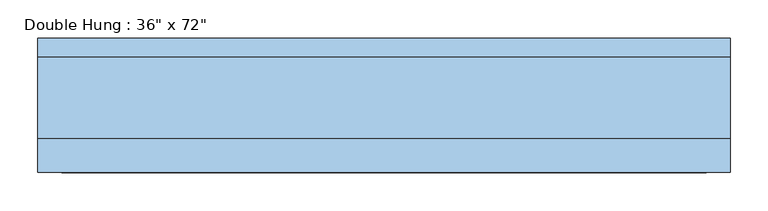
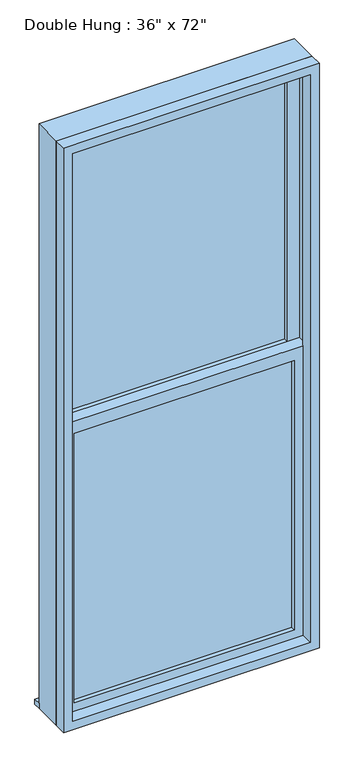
"""IFC4 building model written with IfcOpenShell, lengths in millimetres: window geometry."""

from ifc_helpers import new_model, si_unit, frame, origin, place, context, project, spatial, polyline, outline, extrude, source, transform, mapped, element, save


def window_8e2a3c93(model_context):
    return source(origin(), model_context, "Body", "SweptSolid", [
        extrude(outline(polyline([(-393.7, -3.175), (393.7, -3.175), (393.7, -15.875), (-393.7, -15.875), (-393.7, -3.175)])), frame((0.0, 0.0, 368.3), z_axis=(0.0, 0.0, 1.0), x_axis=(1.0, 0.0, 0.0)), (0.0, 0.0, 1.0), 1019.175),
        extrude(outline(polyline([(1431.925, -438.15), (323.85, -438.15), (323.85, 438.15), (1431.925, 438.15), (1431.925, -438.15)]), holes=[polyline([(1387.475, -393.7), (1387.475, 393.7), (368.3, 393.7), (368.3, -393.7), (1387.475, -393.7)])]), frame((0.0, -31.75, 0.0), z_axis=(0.0, 1.0, 0.0), x_axis=(0.0, 0.0, 1.0)), (0.0, 0.0, 1.0), 44.45),
        extrude(outline(polyline([(-457.2, 101.6), (457.2, 101.6), (457.2, 76.2), (-457.2, 76.2), (-457.2, 101.6)])), frame((0.0, 0.0, 304.8), z_axis=(0.0, 0.0, 1.0), x_axis=(1.0, 0.0, 0.0)), (0.0, 0.0, 1.0), 19.05),
        extrude(outline(polyline([(393.7, 28.575), (-393.7, 28.575), (-393.7, 41.275), (393.7, 41.275), (393.7, 28.575)])), frame((0.0, 0.0, 1431.925), z_axis=(0.0, 0.0, 1.0), x_axis=(1.0, 0.0, 0.0)), (0.0, 0.0, 1.0), 1019.175),
        extrude(outline(polyline([(2495.55, -438.15), (1387.475, -438.15), (1387.475, 438.15), (2495.55, 438.15), (2495.55, -438.15)]), holes=[polyline([(2451.1, -393.7), (2451.1, 393.7), (1431.925, 393.7), (1431.925, -393.7), (2451.1, -393.7)])]), frame((0.0, 12.7, 0.0), z_axis=(0.0, 1.0, 0.0), x_axis=(0.0, 0.0, 1.0)), (0.0, 0.0, 1.0), 44.45),
        extrude(outline(polyline([(2514.6, -457.2), (304.8, -457.2), (304.8, 457.2), (2514.6, 457.2), (2514.6, -457.2)]), holes=[polyline([(2482.85, -425.45), (2482.85, 425.45), (336.55, 425.45), (336.55, -425.45), (2482.85, -425.45)])]), frame((0.0, -76.2, 0.0), z_axis=(0.0, 1.0, 0.0), x_axis=(0.0, 0.0, 1.0)), (0.0, 0.0, 1.0), 44.45),
        extrude(outline(polyline([(2514.6, 457.2), (2514.6, -457.2), (304.8, -457.2), (304.8, 457.2), (2514.6, 457.2)]), holes=[polyline([(2495.55, 438.15), (323.85, 438.15), (323.85, -438.15), (2495.55, -438.15), (2495.55, 438.15)])]), frame((0.0, -31.75, 0.0), z_axis=(0.0, 1.0, 0.0), x_axis=(0.0, 0.0, 1.0)), (0.0, 0.0, 1.0), 107.95),
    ])


if __name__ == "__main__":
    model = new_model("IFC4")
    model_context = context("Model", 3, world=origin())
    ifc_project = project(units=[si_unit("LENGTHUNIT", "METRE", prefix="MILLI")], contexts=[model_context])
    site = spatial("IfcSite", under=ifc_project)
    building = spatial("IfcBuilding", under=site)
    placement = place(None, origin())
    window_shape = window_8e2a3c93(model_context)
    element("IfcWindow", 1, ObjectType="Double Hung : 36\" x 72\"", at=placement, inside=building, context=model_context, shape_type="MappedRepresentation", body=[
        mapped(window_shape, transform((0.0, 0.0, 0.0), x_axis=(1.0, 0.0, 0.0), y_axis=(0.0, 1.0, 0.0), z_axis=(0.0, 0.0, 1.0))),
    ])
    save(model, "model.ifc")
